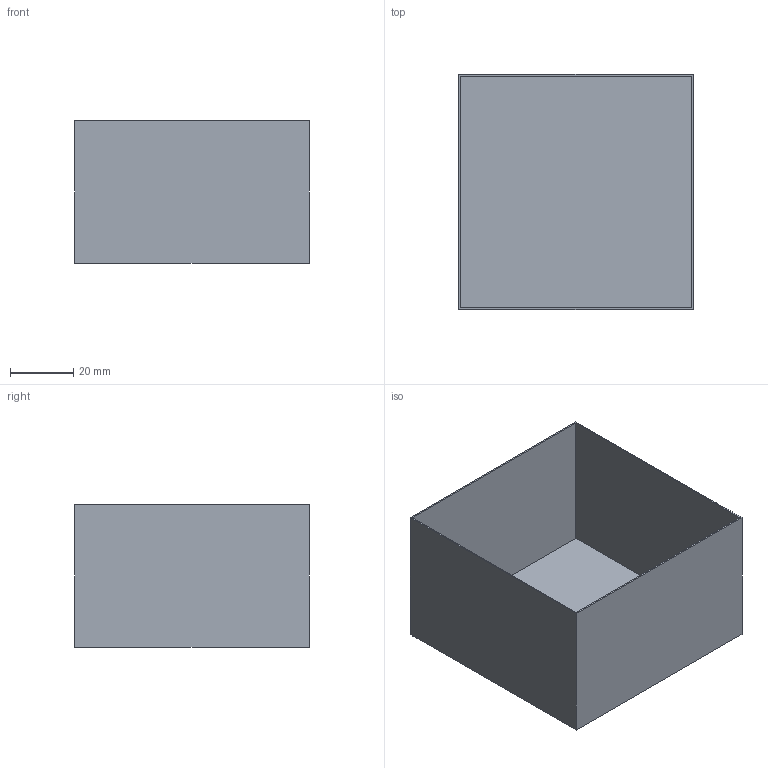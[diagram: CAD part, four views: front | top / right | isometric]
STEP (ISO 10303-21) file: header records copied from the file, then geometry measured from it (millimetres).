
FILE_DESCRIPTION(/* description */ ('STEP AP242','CAx-IF Rec.Pracs.---Representation and Presentation of Product Manufacturing Information (PMI)---4.0---2014-10-13','CAx-IF Rec.Pracs.---3D Tessellated Geometry---0.4---2014-09-14','2;1'),/* implementation_level */ '2;1');
FILE_NAME(/* name */ '675f9e5784c84846f38c26fb',/* time_stamp */ '2024-12-16T03:28:23Z',/* author */ (''),/* organization */ (''),/* preprocessor_version */ 'ST-DEVELOPER v20',/* originating_system */ 'ONSHAPE BY PTC INC, 1.191',/* authorisation */ ' ');
FILE_SCHEMA (('AP242_MANAGED_MODEL_BASED_3D_ENGINEERING_MIM_LF { 1 0 10303 442 1 1 4 }'));
Length unit declared in the file: metre
Products named in the file (1): Part 2
Bounding box: 74 x 74 x 45 mm (x, y, z)
Volume: 9279.5 mm3; surface area: 37266 mm2
Topology: 1 solids, 1 shells, 11 faces, 24 edges, 16 vertices
Faces by surface type: plane 11
Entity records: 320 total; most frequent: CARTESIAN_POINT 52, ORIENTED_EDGE 48, DIRECTION 48, EDGE_CURVE 24, LINE 24, VECTOR 24, VERTEX_POINT 16, EDGE_LOOP 12
